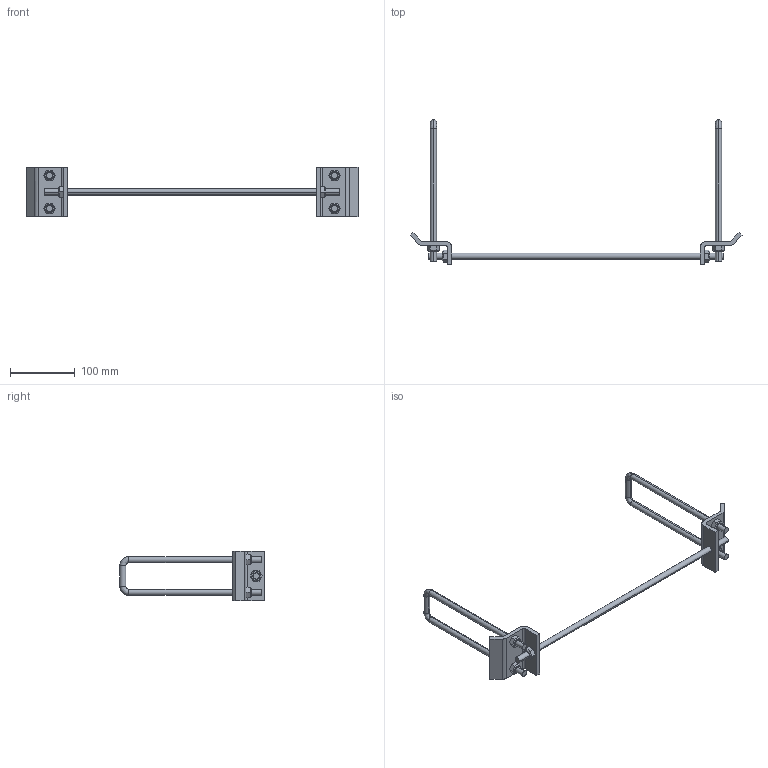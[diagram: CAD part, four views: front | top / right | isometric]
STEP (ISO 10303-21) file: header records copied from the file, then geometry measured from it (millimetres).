
FILE_DESCRIPTION(('TurboCAD Mac Pro'),'Build 980');
FILE_NAME('P2868B-18.stp',' ',(''),(''),'ACIS Interop','IMSI','TurboCAD Mac Pro BY IMSI, INCORPORATED');
FILE_SCHEMA(('automotive_design'));
Length unit declared in the file: inch
Products named in the file (11): 1; 2; 3; 4; 5; 6; 7; 8; 9; 10; 11
Bounding box: 513.8 x 223.86 x 76.2 mm (x, y, z)
Volume: 195131 mm3; surface area: 81390.4 mm2
Topology: 11 solids, 11 shells, 176 faces, 410 edges, 256 vertices
Faces by surface type: plane 110, bspline 40, cylinder 26
Entity records: 9060 total; most frequent: CARTESIAN_POINT 1837, ORIENTED_EDGE 820, DIRECTION 692, STYLED_ITEM 533, PRESENTATION_STYLE_ASSIGNMENT 533, COLOUR_RGB 533, EDGE_CURVE 410, CURVE_STYLE 346
